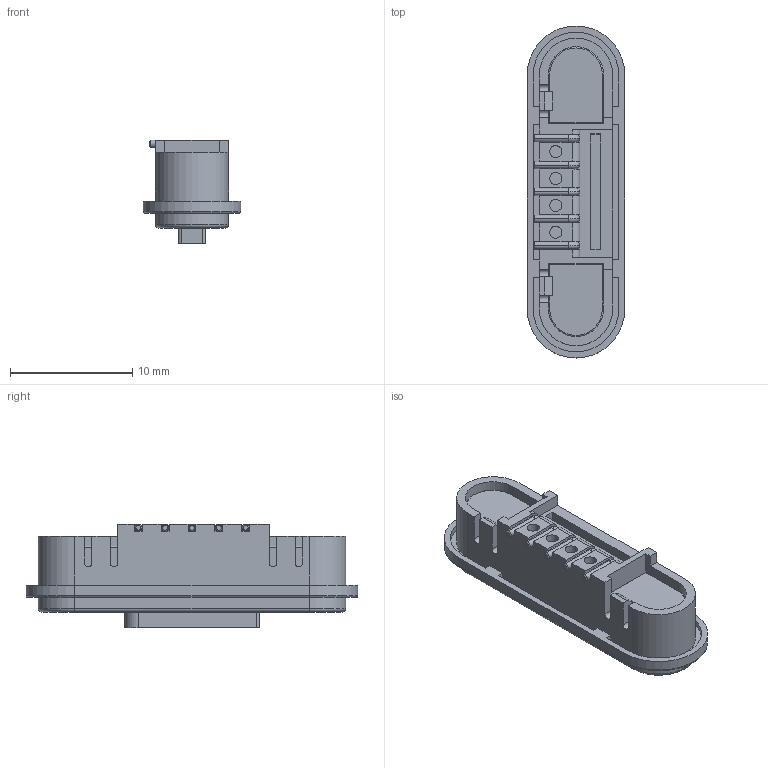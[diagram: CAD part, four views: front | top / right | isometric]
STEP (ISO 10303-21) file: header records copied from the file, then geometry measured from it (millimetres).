
FILE_DESCRIPTION((''),'2;1');
FILE_NAME('5PINFEMALE_ASM','2022-05-25T',('lenovo'),(''),'PRO/ENGINEER BY PARAMETRIC TECHNOLOGY CORPORATION, 2008380','PRO/ENGINEER BY PARAMETRIC TECHNOLOGY CORPORATION, 2008380','');
FILE_SCHEMA(('CONFIG_CONTROL_DESIGN'));
Length unit declared in the file: millimetre
Products named in the file (5): FEMALEHOUSING; N; S; PIN; 5PINFEMALE_ASM
Assembly tree (8 placements, depth 2):
  5PINFEMALE_ASM
    FEMALEHOUSING
    N
    S
    PIN  x5
Bounding box: 8 x 27.2 x 8.5 mm (x, y, z)
Volume: 901.3 mm3; surface area: 1888.9 mm2
Topology: 8 solids, 8 shells, 334 faces, 789 edges, 489 vertices
Faces by surface type: plane 146, cylinder 138, cone 20, torus 18, sphere 12
Entity records: 7886 total; most frequent: DIRECTION 1407, CARTESIAN_POINT 1359, ORIENTED_EDGE 1286, EDGE_CURVE 643, AXIS2_PLACEMENT_3D 493, VECTOR 421, LINE 421, VERTEX_POINT 405
